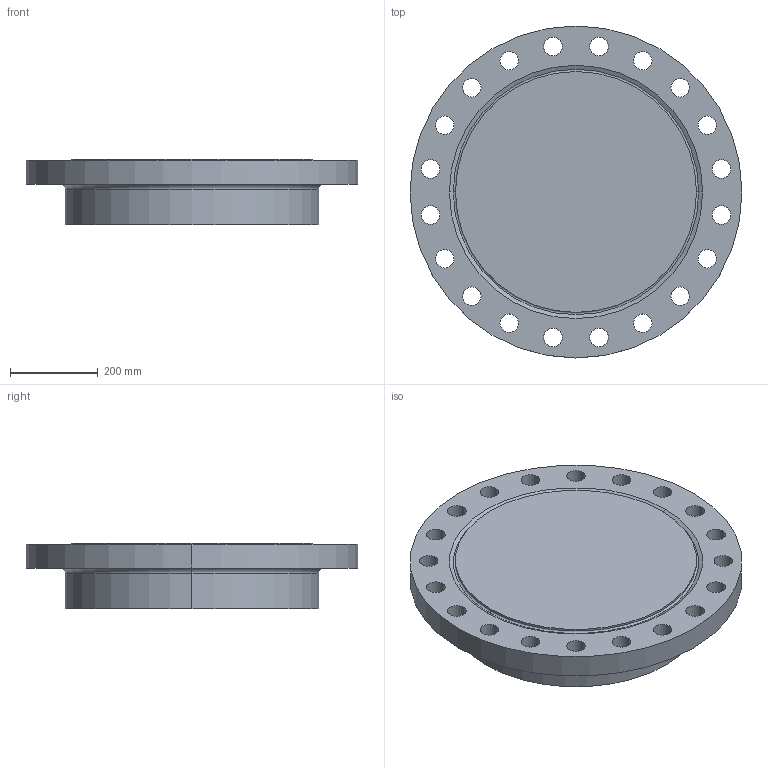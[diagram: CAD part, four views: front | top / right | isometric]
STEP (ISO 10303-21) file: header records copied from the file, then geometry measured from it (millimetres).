
FILE_DESCRIPTION (( 'STEP AP214' ), '1' );
FILE_NAME ('PN40 DN500 Type 21(i) - Type H Face.STEP', '2018-12-29T04:24:39', ( '' ), ( '' ), 'SwSTEP 2.0', 'SolidWorks 2019', '' );
FILE_SCHEMA (( 'AUTOMOTIVE_DESIGN' ));
Length unit declared in the file: millimetre
Products named in the file (1): PN40 DN500 Type 21(i) - Type H Face
Bounding box: 755 x 755 x 150 mm (x, y, z)
Volume: 47601148 mm3; surface area: 1282897 mm2
Topology: 1 solids, 1 shells, 56 faces, 150 edges, 98 vertices
Faces by surface type: cylinder 46, torus 4, plane 4, cone 2
Entity records: 1922 total; most frequent: DIRECTION 366, CARTESIAN_POINT 305, ORIENTED_EDGE 300, AXIS2_PLACEMENT_3D 159, EDGE_CURVE 150, CIRCLE 102, VERTEX_POINT 98, EDGE_LOOP 98
